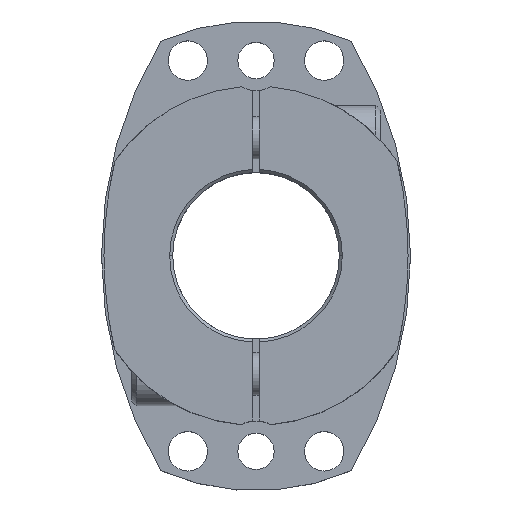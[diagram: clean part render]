
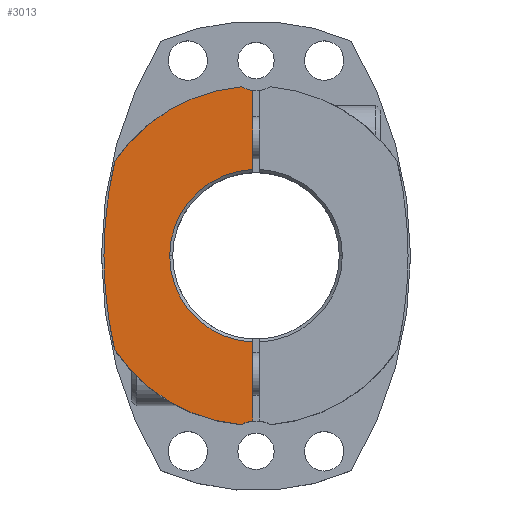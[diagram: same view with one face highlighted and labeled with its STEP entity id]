
A CAD part, top view. The second image highlights one B-rep face of the part: STEP entity #3013.
In plain terms, the highlighted planar face has unit normal (0, 0, 1).
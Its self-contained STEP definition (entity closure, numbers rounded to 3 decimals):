
#414=CARTESIAN_POINT('',(-28.5,0.,42.5));
#415=VERTEX_POINT('',#414);
#422=CARTESIAN_POINT('',(-1.,-28.482,42.5));
#423=VERTEX_POINT('',#422);
#424=CARTESIAN_POINT('',(0.,0.,42.5));
#425=DIRECTION('',(0.0,0.0,1.0));
#426=DIRECTION('',(1.0,0.0,0.0));
#427=AXIS2_PLACEMENT_3D('',#424,#425,#426);
#428=CIRCLE('',#427,28.5);
#429=EDGE_CURVE('',#415,#423,#428,.T.);
#912=CARTESIAN_POINT('',(-50.2,0.,42.5));
#913=VERTEX_POINT('',#912);
#922=CARTESIAN_POINT('',(-46.66,30.965,42.5));
#923=VERTEX_POINT('',#922);
#924=CARTESIAN_POINT('',(87.,0.,42.5));
#925=DIRECTION('',(0.0,0.0,-1.0));
#926=DIRECTION('',(1.0,0.0,0.0));
#927=AXIS2_PLACEMENT_3D('',#924,#925,#926);
#928=CIRCLE('',#927,137.2);
#929=EDGE_CURVE('',#913,#923,#928,.T.);
#2026=CARTESIAN_POINT('',(-46.66,-30.965,42.5));
#2027=VERTEX_POINT('',#2026);
#2034=CARTESIAN_POINT('',(87.,0.,42.5));
#2035=DIRECTION('',(0.0,0.0,-1.0));
#2036=DIRECTION('',(1.0,0.0,0.0));
#2037=AXIS2_PLACEMENT_3D('',#2034,#2035,#2036);
#2038=CIRCLE('',#2037,137.2);
#2039=EDGE_CURVE('',#2027,#913,#2038,.T.);
#2637=CARTESIAN_POINT('',(-1.,54.55,42.5));
#2638=VERTEX_POINT('',#2637);
#2645=CARTESIAN_POINT('',(-1.,28.482,42.5));
#2646=VERTEX_POINT('',#2645);
#2647=CARTESIAN_POINT('',(-1.,28.482,42.5));
#2648=DIRECTION('',(0.0,1.0,0.0));
#2649=VECTOR('',#2648,26.068);
#2650=LINE('',#2647,#2649);
#2651=EDGE_CURVE('',#2646,#2638,#2650,.T.);
#2739=CARTESIAN_POINT('',(-1.,-54.55,42.5));
#2740=VERTEX_POINT('',#2739);
#2741=CARTESIAN_POINT('',(-1.,-54.55,42.5));
#2742=DIRECTION('',(0.0,1.0,0.0));
#2743=VECTOR('',#2742,26.068);
#2744=LINE('',#2741,#2743);
#2745=EDGE_CURVE('',#2740,#423,#2744,.T.);
#2826=CARTESIAN_POINT('',(-4.904,-55.785,42.5));
#2827=VERTEX_POINT('',#2826);
#2828=CARTESIAN_POINT('',(0.,-64.5,42.5));
#2829=DIRECTION('',(0.0,0.0,-1.0));
#2830=DIRECTION('',(1.0,0.0,0.0));
#2831=AXIS2_PLACEMENT_3D('',#2828,#2829,#2830);
#2832=CIRCLE('',#2831,10.0);
#2833=EDGE_CURVE('',#2827,#2740,#2832,.T.);
#2970=CARTESIAN_POINT('',(0.,0.,42.5));
#2971=DIRECTION('',(0.0,0.0,1.0));
#2972=DIRECTION('',(1.0,0.0,0.0));
#2973=AXIS2_PLACEMENT_3D('',#2970,#2971,#2972);
#2974=PLANE('',#2973);
#2975=ORIENTED_EDGE('',*,*,#2745,.T.);
#2976=ORIENTED_EDGE('',*,*,#429,.F.);
#2977=CARTESIAN_POINT('',(0.,0.,42.5));
#2978=DIRECTION('',(0.0,0.0,1.0));
#2979=DIRECTION('',(1.0,0.0,0.0));
#2980=AXIS2_PLACEMENT_3D('',#2977,#2978,#2979);
#2981=CIRCLE('',#2980,28.5);
#2982=EDGE_CURVE('',#2646,#415,#2981,.T.);
#2983=ORIENTED_EDGE('',*,*,#2982,.F.);
#2984=ORIENTED_EDGE('',*,*,#2651,.T.);
#2985=CARTESIAN_POINT('',(-4.904,55.785,42.5));
#2986=VERTEX_POINT('',#2985);
#2987=CARTESIAN_POINT('',(0.,64.5,42.5));
#2988=DIRECTION('',(0.0,0.0,-1.0));
#2989=DIRECTION('',(1.0,0.0,0.0));
#2990=AXIS2_PLACEMENT_3D('',#2987,#2988,#2989);
#2991=CIRCLE('',#2990,10.0);
#2992=EDGE_CURVE('',#2638,#2986,#2991,.T.);
#2993=ORIENTED_EDGE('',*,*,#2992,.T.);
#2994=CARTESIAN_POINT('',(0.,0.,42.5));
#2995=DIRECTION('',(0.0,0.0,-1.0));
#2996=DIRECTION('',(1.0,0.0,0.0));
#2997=AXIS2_PLACEMENT_3D('',#2994,#2995,#2996);
#2998=CIRCLE('',#2997,56.);
#2999=EDGE_CURVE('',#923,#2986,#2998,.T.);
#3000=ORIENTED_EDGE('',*,*,#2999,.F.);
#3001=ORIENTED_EDGE('',*,*,#929,.F.);
#3002=ORIENTED_EDGE('',*,*,#2039,.F.);
#3003=CARTESIAN_POINT('',(0.,0.0,42.5));
#3004=DIRECTION('',(0.0,0.0,-1.0));
#3005=DIRECTION('',(1.0,0.0,0.0));
#3006=AXIS2_PLACEMENT_3D('',#3003,#3004,#3005);
#3007=CIRCLE('',#3006,56.);
#3008=EDGE_CURVE('',#2827,#2027,#3007,.T.);
#3009=ORIENTED_EDGE('',*,*,#3008,.F.);
#3010=ORIENTED_EDGE('',*,*,#2833,.T.);
#3011=EDGE_LOOP('',(#2975,#2976,#2983,#2984,#2993,#3000,#3001,#3002,#3009,#3010));
#3012=FACE_OUTER_BOUND('',#3011,.T.);
#3013=ADVANCED_FACE('',(#3012),#2974,.T.);
